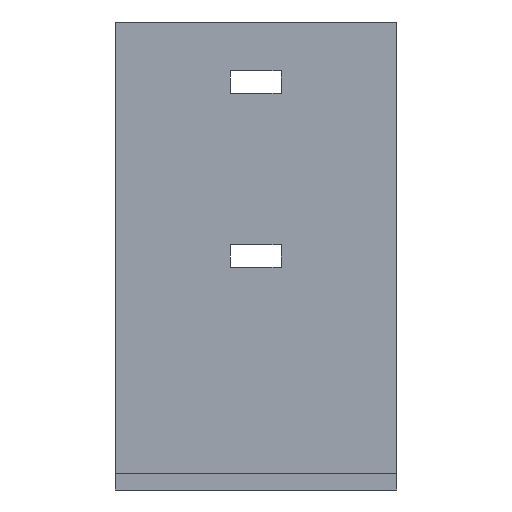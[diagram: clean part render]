
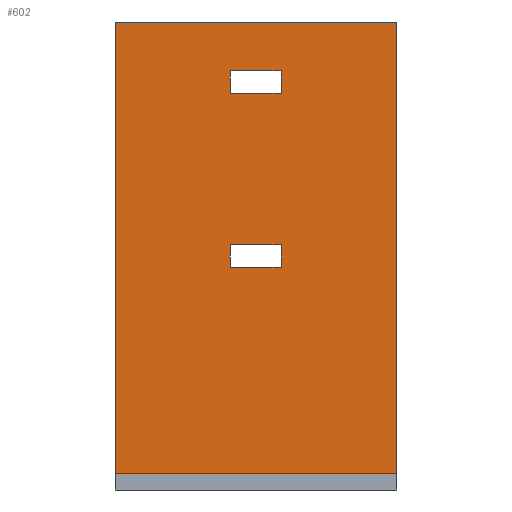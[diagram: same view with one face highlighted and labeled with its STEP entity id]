
A CAD part, front view. The second image highlights one B-rep face of the part: STEP entity #602.
In plain terms, the highlighted planar face has unit normal (0, -1, 0).
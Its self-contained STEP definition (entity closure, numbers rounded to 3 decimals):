
#6 = EDGE_CURVE ( 'NONE', #234, #134, #102, .T. ) ;
#14 = EDGE_CURVE ( 'NONE', #709, #186, #586, .T. ) ;
#22 = VECTOR ( 'NONE', #298, 1000. ) ;
#38 = ORIENTED_EDGE ( 'NONE', *, *, #14, .T. ) ;
#42 = CARTESIAN_POINT ( 'NONE',  ( -20.544, 25.717, 0. ) ) ;
#46 = LINE ( 'NONE', #184, #185 ) ;
#58 = ORIENTED_EDGE ( 'NONE', *, *, #779, .T. ) ;
#64 = VECTOR ( 'NONE', #832, 1000. ) ;
#66 = PLANE ( 'NONE',  #850 ) ;
#72 = LINE ( 'NONE', #417, #424 ) ;
#79 = CARTESIAN_POINT ( 'NONE',  ( -20.544, 25.717, 0. ) ) ;
#80 = EDGE_CURVE ( 'NONE', #838, #234, #541, .T. ) ;
#87 = CARTESIAN_POINT ( 'NONE',  ( 0., 25.717, 3. ) ) ;
#91 = ORIENTED_EDGE ( 'NONE', *, *, #571, .F. ) ;
#98 = CARTESIAN_POINT ( 'NONE',  ( 0., 25.717, 83. ) ) ;
#100 = CARTESIAN_POINT ( 'NONE',  ( -29.544, 25.717, 74.338 ) ) ;
#102 = LINE ( 'NONE', #501, #680 ) ;
#113 = DIRECTION ( 'NONE',  ( 0., 0., 1. ) ) ;
#115 = VECTOR ( 'NONE', #745, 1000. ) ;
#129 = ORIENTED_EDGE ( 'NONE', *, *, #854, .F. ) ;
#134 = VERTEX_POINT ( 'NONE', #87 ) ;
#135 = LINE ( 'NONE', #281, #813 ) ;
#137 = EDGE_CURVE ( 'NONE', #269, #532, #561, .T. ) ;
#152 = DIRECTION ( 'NONE',  ( -1., 0., 0. ) ) ;
#175 = EDGE_CURVE ( 'NONE', #712, #269, #212, .T. ) ;
#180 = VERTEX_POINT ( 'NONE', #224 ) ;
#184 = CARTESIAN_POINT ( 'NONE',  ( -29.544, 25.717, 0. ) ) ;
#185 = VECTOR ( 'NONE', #323, 1000. ) ;
#186 = VERTEX_POINT ( 'NONE', #752 ) ;
#212 = LINE ( 'NONE', #79, #64 ) ;
#215 = VECTOR ( 'NONE', #245, 1000. ) ;
#220 = CARTESIAN_POINT ( 'NONE',  ( 0., 25.717, 43.5 ) ) ;
#224 = CARTESIAN_POINT ( 'NONE',  ( -29.544, 25.717, 39.5 ) ) ;
#234 = VERTEX_POINT ( 'NONE', #430 ) ;
#245 = DIRECTION ( 'NONE',  ( 1., 0., 0. ) ) ;
#255 = VERTEX_POINT ( 'NONE', #441 ) ;
#269 = VERTEX_POINT ( 'NONE', #817 ) ;
#281 = CARTESIAN_POINT ( 'NONE',  ( 0., 25.717, 70.338 ) ) ;
#288 = CARTESIAN_POINT ( 'NONE',  ( -20.544, 25.717, 39.5 ) ) ;
#298 = DIRECTION ( 'NONE',  ( 1., 0., 0. ) ) ;
#303 = ORIENTED_EDGE ( 'NONE', *, *, #6, .T. ) ;
#306 = EDGE_CURVE ( 'NONE', #186, #807, #311, .T. ) ;
#311 = LINE ( 'NONE', #42, #853 ) ;
#323 = DIRECTION ( 'NONE',  ( 0., 0., -1. ) ) ;
#330 = ORIENTED_EDGE ( 'NONE', *, *, #175, .F. ) ;
#366 = CARTESIAN_POINT ( 'NONE',  ( 0., 25.717, 83. ) ) ;
#368 = VECTOR ( 'NONE', #684, 1000. ) ;
#385 = VECTOR ( 'NONE', #152, 1000. ) ;
#395 = ORIENTED_EDGE ( 'NONE', *, *, #80, .T. ) ;
#399 = VECTOR ( 'NONE', #547, 1000. ) ;
#401 = EDGE_CURVE ( 'NONE', #180, #532, #866, .T. ) ;
#417 = CARTESIAN_POINT ( 'NONE',  ( 0., 25.717, 39.5 ) ) ;
#424 = VECTOR ( 'NONE', #702, 1000. ) ;
#429 = DIRECTION ( 'NONE',  ( 1., 0., 0. ) ) ;
#430 = CARTESIAN_POINT ( 'NONE',  ( -50., 25.717, 3. ) ) ;
#441 = CARTESIAN_POINT ( 'NONE',  ( 0., 25.717, 83. ) ) ;
#471 = FACE_OUTER_BOUND ( 'NONE', #880, .T. ) ;
#479 = CARTESIAN_POINT ( 'NONE',  ( -29.544, 25.717, 0. ) ) ;
#501 = CARTESIAN_POINT ( 'NONE',  ( 0., 25.717, 3. ) ) ;
#505 = EDGE_LOOP ( 'NONE', ( #507, #527, #129, #38 ) ) ;
#507 = ORIENTED_EDGE ( 'NONE', *, *, #306, .T. ) ;
#511 = EDGE_CURVE ( 'NONE', #838, #255, #626, .T. ) ;
#523 = FACE_BOUND ( 'NONE', #505, .T. ) ;
#527 = ORIENTED_EDGE ( 'NONE', *, *, #676, .F. ) ;
#530 = ORIENTED_EDGE ( 'NONE', *, *, #137, .F. ) ;
#532 = VERTEX_POINT ( 'NONE', #760 ) ;
#540 = FACE_BOUND ( 'NONE', #631, .T. ) ;
#541 = LINE ( 'NONE', #737, #115 ) ;
#547 = DIRECTION ( 'NONE',  ( 0., 0., 1. ) ) ;
#557 = CARTESIAN_POINT ( 'NONE',  ( -29.544, 25.717, 70.338 ) ) ;
#561 = LINE ( 'NONE', #220, #385 ) ;
#571 = EDGE_CURVE ( 'NONE', #255, #134, #841, .T. ) ;
#575 = DIRECTION ( 'NONE',  ( 1., 0., 0. ) ) ;
#586 = LINE ( 'NONE', #851, #215 ) ;
#601 = ORIENTED_EDGE ( 'NONE', *, *, #511, .F. ) ;
#602 = ADVANCED_FACE ( 'NONE', ( #540, #471, #523 ), #66, .F. ) ;
#626 = LINE ( 'NONE', #366, #22 ) ;
#631 = EDGE_LOOP ( 'NONE', ( #867, #530, #330, #58 ) ) ;
#676 = EDGE_CURVE ( 'NONE', #716, #807, #135, .T. ) ;
#680 = VECTOR ( 'NONE', #575, 1000. ) ;
#684 = DIRECTION ( 'NONE',  ( 0., 0., -1. ) ) ;
#702 = DIRECTION ( 'NONE',  ( -1., 0., 0. ) ) ;
#709 = VERTEX_POINT ( 'NONE', #100 ) ;
#712 = VERTEX_POINT ( 'NONE', #288 ) ;
#716 = VERTEX_POINT ( 'NONE', #557 ) ;
#737 = CARTESIAN_POINT ( 'NONE',  ( -50., 25.717, 83. ) ) ;
#744 = CARTESIAN_POINT ( 'NONE',  ( -50., 25.717, 83. ) ) ;
#745 = DIRECTION ( 'NONE',  ( 0., 0., -1. ) ) ;
#752 = CARTESIAN_POINT ( 'NONE',  ( -20.544, 25.717, 74.338 ) ) ;
#760 = CARTESIAN_POINT ( 'NONE',  ( -29.544, 25.717, 43.5 ) ) ;
#779 = EDGE_CURVE ( 'NONE', #712, #180, #72, .T. ) ;
#782 = DIRECTION ( 'NONE',  ( 0., 0., -1. ) ) ;
#804 = CARTESIAN_POINT ( 'NONE',  ( 0., 25.717, 83. ) ) ;
#807 = VERTEX_POINT ( 'NONE', #884 ) ;
#808 = DIRECTION ( 'NONE',  ( 0., 1., 0. ) ) ;
#813 = VECTOR ( 'NONE', #429, 1000. ) ;
#817 = CARTESIAN_POINT ( 'NONE',  ( -20.544, 25.717, 43.5 ) ) ;
#832 = DIRECTION ( 'NONE',  ( 0., 0., 1. ) ) ;
#838 = VERTEX_POINT ( 'NONE', #744 ) ;
#841 = LINE ( 'NONE', #98, #368 ) ;
#850 = AXIS2_PLACEMENT_3D ( 'NONE', #804, #808, #113 ) ;
#851 = CARTESIAN_POINT ( 'NONE',  ( 0., 25.717, 74.338 ) ) ;
#853 = VECTOR ( 'NONE', #782, 1000. ) ;
#854 = EDGE_CURVE ( 'NONE', #709, #716, #46, .T. ) ;
#866 = LINE ( 'NONE', #479, #399 ) ;
#867 = ORIENTED_EDGE ( 'NONE', *, *, #401, .T. ) ;
#880 = EDGE_LOOP ( 'NONE', ( #303, #91, #601, #395 ) ) ;
#884 = CARTESIAN_POINT ( 'NONE',  ( -20.544, 25.717, 70.338 ) ) ;
